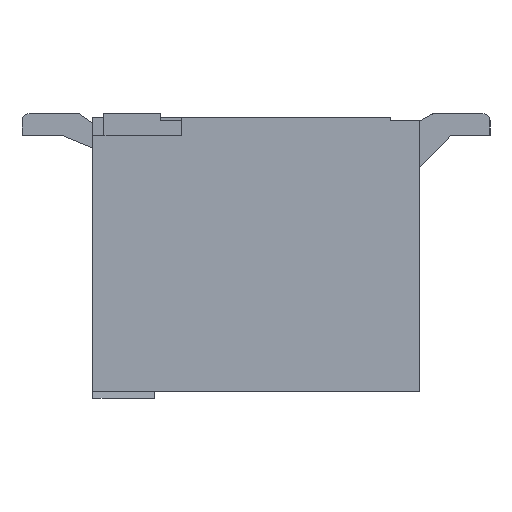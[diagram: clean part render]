
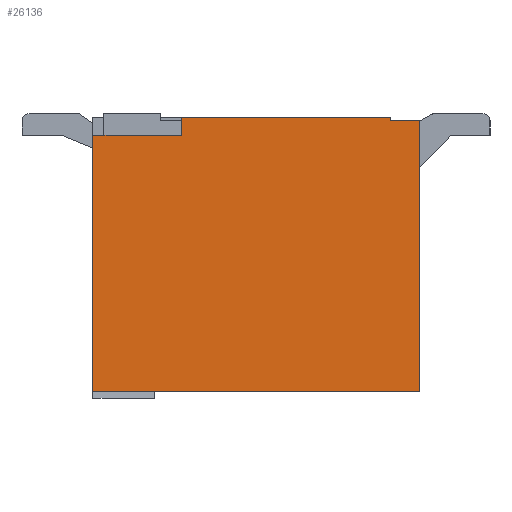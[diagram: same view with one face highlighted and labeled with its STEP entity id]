
A CAD part, left-side view. The second image highlights one B-rep face of the part: STEP entity #26136.
In plain terms, the highlighted planar face has unit normal (-1, 0, 0).
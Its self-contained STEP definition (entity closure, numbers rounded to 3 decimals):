
#1=DIRECTION('',(0.,1.,0.));
#2=VECTOR('',#1,0.4);
#3=CARTESIAN_POINT('',(0.,-4.6,3.81));
#4=LINE('',#3,#2);
#5=DIRECTION('',(0.,0.,-1.));
#6=VECTOR('',#5,3.81);
#7=CARTESIAN_POINT('',(0.,-4.6,3.81));
#8=LINE('',#7,#6);
#9=DIRECTION('',(0.,1.,0.));
#10=VECTOR('',#9,4.6);
#11=CARTESIAN_POINT('',(0.,-4.6,0.));
#12=LINE('',#11,#10);
#13=DIRECTION('',(0.,0.,1.));
#14=VECTOR('',#13,3.61);
#15=CARTESIAN_POINT('',(0.,0.,0.));
#16=LINE('',#15,#14);
#17=DIRECTION('',(0.,-1.,0.));
#18=VECTOR('',#17,1.25);
#19=CARTESIAN_POINT('',(0.,0.,3.61));
#20=LINE('',#19,#18);
#21=DIRECTION('',(0.,0.,-1.));
#22=VECTOR('',#21,0.25);
#23=CARTESIAN_POINT('',(0.,-1.25,3.86));
#24=LINE('',#23,#22);
#25=DIRECTION('',(0.,-1.,0.));
#26=VECTOR('',#25,2.95);
#27=CARTESIAN_POINT('',(0.,-1.25,3.86));
#28=LINE('',#27,#26);
#29=DIRECTION('',(0.,0.,-1.));
#30=VECTOR('',#29,0.05);
#31=CARTESIAN_POINT('',(0.,-4.2,3.86));
#32=LINE('',#31,#30);
#19877=CARTESIAN_POINT('',(0.,-4.6,0.));
#19878=CARTESIAN_POINT('',(0.,0.,0.));
#19879=VERTEX_POINT('',#19877);
#19880=VERTEX_POINT('',#19878);
#19913=CARTESIAN_POINT('',(0.,-1.25,3.86));
#19914=CARTESIAN_POINT('',(0.,-1.25,3.61));
#19915=VERTEX_POINT('',#19913);
#19916=VERTEX_POINT('',#19914);
#19917=CARTESIAN_POINT('',(0.,0.,3.61));
#19918=VERTEX_POINT('',#19917);
#19971=CARTESIAN_POINT('',(0.,-4.6,3.81));
#19972=CARTESIAN_POINT('',(0.,-4.2,3.81));
#19973=VERTEX_POINT('',#19971);
#19974=VERTEX_POINT('',#19972);
#19975=CARTESIAN_POINT('',(0.,-4.2,3.86));
#19976=VERTEX_POINT('',#19975);
#26113=CARTESIAN_POINT('',(0.,0.,0.));
#26114=DIRECTION('',(1.,0.,0.));
#26115=DIRECTION('',(0.,-1.,0.));
#26116=AXIS2_PLACEMENT_3D('',#26113,#26114,#26115);
#26117=PLANE('',#26116);
#26119=ORIENTED_EDGE('',*,*,#26118,.F.);
#26121=ORIENTED_EDGE('',*,*,#26120,.T.);
#26123=ORIENTED_EDGE('',*,*,#26122,.T.);
#26125=ORIENTED_EDGE('',*,*,#26124,.T.);
#26127=ORIENTED_EDGE('',*,*,#26126,.T.);
#26129=ORIENTED_EDGE('',*,*,#26128,.F.);
#26131=ORIENTED_EDGE('',*,*,#26130,.T.);
#26133=ORIENTED_EDGE('',*,*,#26132,.T.);
#26134=EDGE_LOOP('',(#26119,#26121,#26123,#26125,#26127,#26129,#26131,#26133));
#26135=FACE_OUTER_BOUND('',#26134,.F.);
#26136=ADVANCED_FACE('',(#26135),#26117,.F.);
#26118=EDGE_CURVE('',#19973,#19974,#4,.T.);
#26120=EDGE_CURVE('',#19973,#19879,#8,.T.);
#26122=EDGE_CURVE('',#19879,#19880,#12,.T.);
#26124=EDGE_CURVE('',#19880,#19918,#16,.T.);
#26126=EDGE_CURVE('',#19918,#19916,#20,.T.);
#26128=EDGE_CURVE('',#19915,#19916,#24,.T.);
#26130=EDGE_CURVE('',#19915,#19976,#28,.T.);
#26132=EDGE_CURVE('',#19976,#19974,#32,.T.);
